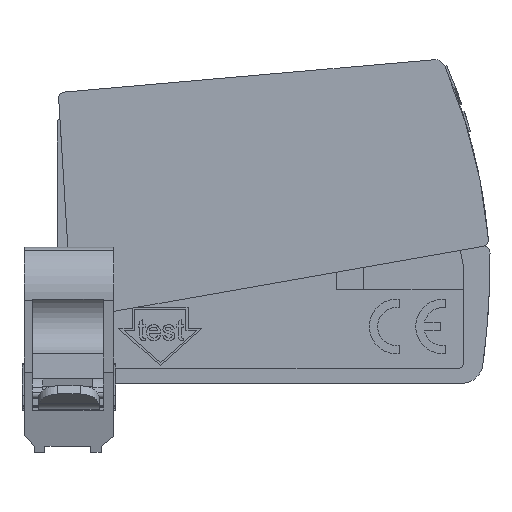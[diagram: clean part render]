
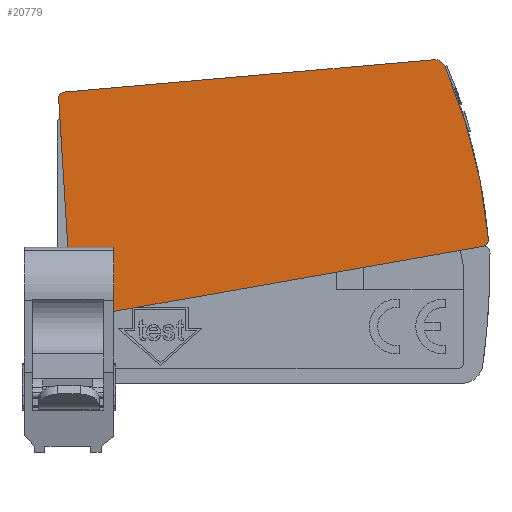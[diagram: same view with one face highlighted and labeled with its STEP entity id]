
A CAD part, front view. The second image highlights one B-rep face of the part: STEP entity #20779.
In plain terms, the highlighted planar face has unit normal (0, -1, 0).
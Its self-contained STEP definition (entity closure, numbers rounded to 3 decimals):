
#187 = VERTEX_POINT ( 'NONE', #43007 ) ;
#1633 = CARTESIAN_POINT ( 'NONE',  ( -6.506, -0.95, 4.607 ) ) ;
#1832 = CARTESIAN_POINT ( 'NONE',  ( 20.196, -0.95, 6.898 ) ) ;
#1940 = CIRCLE ( 'NONE', #47007, 0.6 ) ;
#2391 = DIRECTION ( 'NONE',  ( 0., -1., 0. ) ) ;
#2857 = PLANE ( 'NONE',  #6182 ) ;
#4155 = VERTEX_POINT ( 'NONE', #46529 ) ;
#4250 = CARTESIAN_POINT ( 'NONE',  ( -0.438, -0.95, 13.664 ) ) ;
#5864 = VERTEX_POINT ( 'NONE', #4250 ) ;
#6182 = AXIS2_PLACEMENT_3D ( 'NONE', #6581, #47919, #17964 ) ;
#6581 = CARTESIAN_POINT ( 'NONE',  ( -6.506, -0.95, 4.607 ) ) ;
#7403 = ORIENTED_EDGE ( 'NONE', *, *, #47782, .T. ) ;
#9165 = VECTOR ( 'NONE', #28153, 1000. ) ;
#9688 = VERTEX_POINT ( 'NONE', #21121 ) ;
#9702 = EDGE_CURVE ( 'NONE', #21747, #5864, #12826, .T. ) ;
#10223 = CARTESIAN_POINT ( 'NONE',  ( 17.595, -0.95, 15.535 ) ) ;
#10539 = FACE_OUTER_BOUND ( 'NONE', #41721, .T. ) ;
#11100 = VERTEX_POINT ( 'NONE', #16074 ) ;
#11258 = AXIS2_PLACEMENT_3D ( 'NONE', #13452, #24813, #15525 ) ;
#12251 = CARTESIAN_POINT ( 'NONE',  ( 0.766, -0.95, 3.804 ) ) ;
#12391 = EDGE_CURVE ( 'NONE', #187, #4155, #1940, .T. ) ;
#12826 = CIRCLE ( 'NONE', #11258, 0.3 ) ;
#13452 = CARTESIAN_POINT ( 'NONE',  ( -0.139, -0.95, 13.682 ) ) ;
#14185 = LINE ( 'NONE', #10223, #27033 ) ;
#14831 = ORIENTED_EDGE ( 'NONE', *, *, #46694, .T. ) ;
#15525 = DIRECTION ( 'NONE',  ( 0., 0., -1. ) ) ;
#16074 = CARTESIAN_POINT ( 'NONE',  ( 0.87, -0.95, 3.213 ) ) ;
#16698 = DIRECTION ( 'NONE',  ( 0., -1., 0. ) ) ;
#17507 = CARTESIAN_POINT ( 'NONE',  ( 19.897, -0.95, 6.873 ) ) ;
#17964 = DIRECTION ( 'NONE',  ( 0., 0., 1. ) ) ;
#19383 = LINE ( 'NONE', #34472, #39881 ) ;
#19895 = DIRECTION ( 'NONE',  ( 0., -1., 0. ) ) ;
#19951 = ORIENTED_EDGE ( 'NONE', *, *, #47956, .T. ) ;
#20744 = CIRCLE ( 'NONE', #35748, 26.8 ) ;
#20779 = ADVANCED_FACE ( 'NONE', ( #10539 ), #2857, .T. ) ;
#21121 = CARTESIAN_POINT ( 'NONE',  ( 17.595, -0.95, 15.535 ) ) ;
#21747 = VERTEX_POINT ( 'NONE', #22613 ) ;
#22613 = CARTESIAN_POINT ( 'NONE',  ( -0.165, -0.95, 13.981 ) ) ;
#22963 = VERTEX_POINT ( 'NONE', #25793 ) ;
#23391 = AXIS2_PLACEMENT_3D ( 'NONE', #17507, #29149, #33102 ) ;
#24193 = LINE ( 'NONE', #42544, #9165 ) ;
#24813 = DIRECTION ( 'NONE',  ( 0., -1., 0. ) ) ;
#25047 = DIRECTION ( 'NONE',  ( -0.996, 0., -0.087 ) ) ;
#25793 = CARTESIAN_POINT ( 'NONE',  ( 19.949, -0.95, 6.577 ) ) ;
#27033 = VECTOR ( 'NONE', #25047, 1000. ) ;
#27075 = ORIENTED_EDGE ( 'NONE', *, *, #45964, .T. ) ;
#27082 = DIRECTION ( 'NONE',  ( 0., 0., -1. ) ) ;
#28105 = ORIENTED_EDGE ( 'NONE', *, *, #41146, .T. ) ;
#28153 = DIRECTION ( 'NONE',  ( 0.061, 0., -0.998 ) ) ;
#28980 = AXIS2_PLACEMENT_3D ( 'NONE', #32921, #48042, #43487 ) ;
#29149 = DIRECTION ( 'NONE',  ( 0., -1., 0. ) ) ;
#32028 = DIRECTION ( 'NONE',  ( 0., 0., -1. ) ) ;
#32063 = VERTEX_POINT ( 'NONE', #32451 ) ;
#32451 = CARTESIAN_POINT ( 'NONE',  ( 18.097, -0.95, 15.235 ) ) ;
#32921 = CARTESIAN_POINT ( 'NONE',  ( 0.766, -0.95, 3.804 ) ) ;
#33102 = DIRECTION ( 'NONE',  ( 0., 0., -1. ) ) ;
#33207 = ORIENTED_EDGE ( 'NONE', *, *, #12391, .T. ) ;
#33709 = CIRCLE ( 'NONE', #28980, 0.6 ) ;
#34446 = CIRCLE ( 'NONE', #23391, 0.3 ) ;
#34472 = CARTESIAN_POINT ( 'NONE',  ( 0.87, -0.95, 3.213 ) ) ;
#35748 = AXIS2_PLACEMENT_3D ( 'NONE', #1633, #2391, #46949 ) ;
#37939 = VERTEX_POINT ( 'NONE', #1832 ) ;
#39571 = EDGE_CURVE ( 'NONE', #37939, #32063, #20744, .T. ) ;
#39881 = VECTOR ( 'NONE', #45145, 1000. ) ;
#40530 = ORIENTED_EDGE ( 'NONE', *, *, #39571, .T. ) ;
#41146 = EDGE_CURVE ( 'NONE', #9688, #21747, #14185, .T. ) ;
#41536 = CIRCLE ( 'NONE', #47813, 0.5 ) ;
#41610 = ORIENTED_EDGE ( 'NONE', *, *, #48588, .T. ) ;
#41721 = EDGE_LOOP ( 'NONE', ( #7403, #33207, #41610, #27075, #19951, #40530, #14831, #28105, #42623 ) ) ;
#42544 = CARTESIAN_POINT ( 'NONE',  ( -0.438, -0.95, 13.664 ) ) ;
#42623 = ORIENTED_EDGE ( 'NONE', *, *, #9702, .T. ) ;
#42939 = CARTESIAN_POINT ( 'NONE',  ( 17.638, -0.95, 15.036 ) ) ;
#43007 = CARTESIAN_POINT ( 'NONE',  ( 0.167, -0.95, 3.767 ) ) ;
#43487 = DIRECTION ( 'NONE',  ( 0., 0., -1. ) ) ;
#45145 = DIRECTION ( 'NONE',  ( 0.985, 0., 0.174 ) ) ;
#45964 = EDGE_CURVE ( 'NONE', #11100, #22963, #19383, .T. ) ;
#46529 = CARTESIAN_POINT ( 'NONE',  ( 0.766, -0.95, 3.204 ) ) ;
#46694 = EDGE_CURVE ( 'NONE', #32063, #9688, #41536, .T. ) ;
#46949 = DIRECTION ( 'NONE',  ( 0., 0., -1. ) ) ;
#47007 = AXIS2_PLACEMENT_3D ( 'NONE', #12251, #19895, #27082 ) ;
#47782 = EDGE_CURVE ( 'NONE', #5864, #187, #24193, .T. ) ;
#47813 = AXIS2_PLACEMENT_3D ( 'NONE', #42939, #16698, #32028 ) ;
#47919 = DIRECTION ( 'NONE',  ( 0., -1., 0. ) ) ;
#47956 = EDGE_CURVE ( 'NONE', #22963, #37939, #34446, .T. ) ;
#48042 = DIRECTION ( 'NONE',  ( 0., -1., 0. ) ) ;
#48588 = EDGE_CURVE ( 'NONE', #4155, #11100, #33709, .T. ) ;
